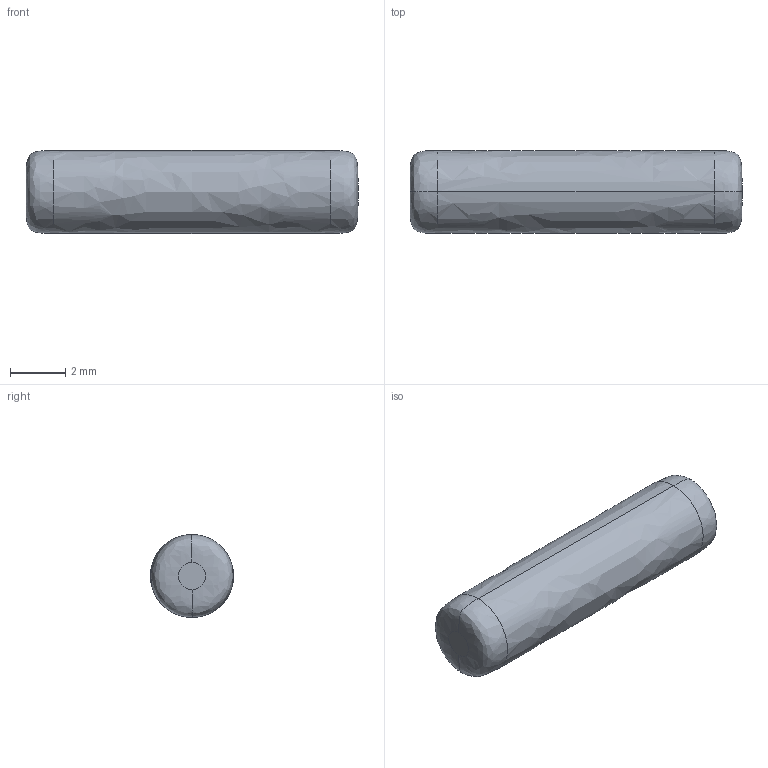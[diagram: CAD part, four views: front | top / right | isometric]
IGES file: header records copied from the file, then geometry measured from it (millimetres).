
Start section:  PTC IGES file: C:\Documents and Settings\audibk\personal\guns\walther\W alther_PPK\iges\stift-buegel.igs
Global section: file name: C:\Documents and Settings\audibk\personal\guns\walther\Walther_PPK\iges\stift-buegel.igs; native system: Pro/ENGINEER by Parametric Technology Corporation; preprocessor: 2002180; author: audibk; organization: Unknown; date: 030409.105324; units: millimetre
Bounding box: 12 x 3 x 3 mm (x, y, z)
Volume: 83.7 mm3; surface area: 122.5 mm2
Topology: 1 solids, 1 shells, 8 faces, 14 edges, 8 vertices
Faces by surface type: bspline 8
